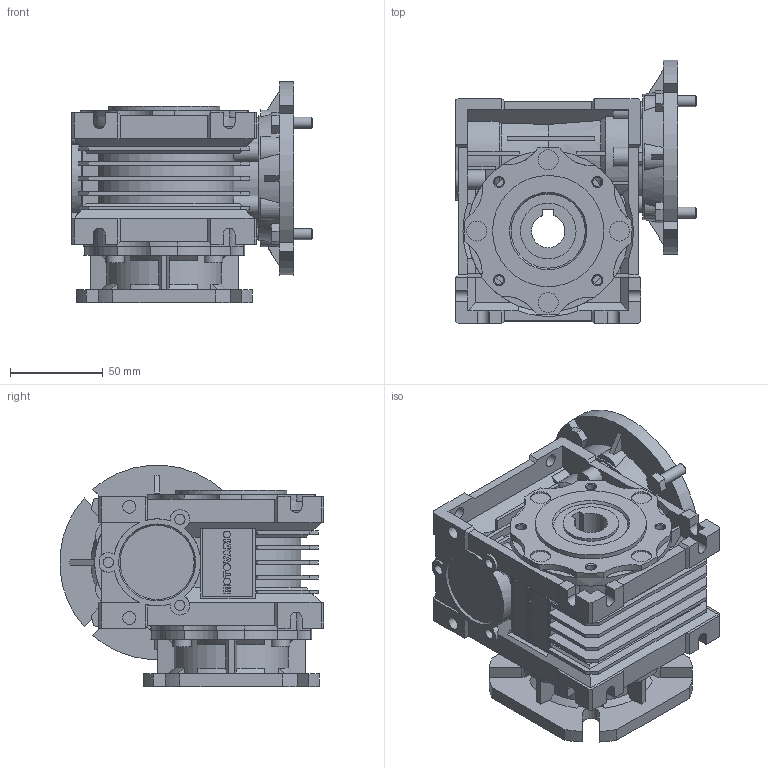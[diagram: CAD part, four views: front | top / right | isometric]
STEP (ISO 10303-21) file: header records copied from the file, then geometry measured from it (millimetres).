
FILE_DESCRIPTION(/* description */ ('STEP AP203'),/* implementation_level */ '2;1');
FILE_NAME(/* name */ 'NMRV0401141812300300NO---_---------------',/* time_stamp */ '2025-11-21T00:29:59+01:00',/* author */ ('License CC BY-ND 4.0'),/* organization */ ('CADENAS'),/* preprocessor_version */ 'ST-DEVELOPER v20',/* originating_system */ 'PARTsolutions',/* authorisation */ ' ');
FILE_SCHEMA (('CONFIG_CONTROL_DESIGN'));
Length unit declared in the file: millimetre
Products named in the file (6): NMRV0401141812300300NO---(---------------); Gear unit 40; 040-18 (78)alc-n; FU 40FA; VB 040-14 (14); 40-71 B14
Assembly tree (5 placements, depth 2):
  NMRV0401141812300300NO---(---------------)
    Gear unit 40
    040-18 (78)alc-n
    FU 40FA
    VB 040-14 (14)
    40-71 B14
Bounding box: 130 x 142.33 x 119.33 mm (x, y, z)
Volume: 751056.5 mm3; surface area: 197660.5 mm2
Topology: 5 solids, 5 shells, 963 faces, 2633 edges, 1715 vertices
Faces by surface type: plane 653, cylinder 226, cone 82, torus 2
Full cylindrical faces by diameter (mm): 4.917 x8, 5.55 x3, 6 x4, 7 x6, 10 x10, 10.8 x4, 11 x6, 16 x1, 23 x2, 28 x1, 30 x2, 35 x1, 36 x1, 40 x1, 47 x1, 56 x1, 59 x1, 60 x4, 68 x1, 70 x1, 75 x1
Entity records: 30253 total; most frequent: CARTESIAN_POINT 5895, ORIENTED_EDGE 5054, DIRECTION 4988, EDGE_CURVE 2527, AXIS2_PLACEMENT_3D 1710, VERTEX_POINT 1696, LINE 1568, VECTOR 1568
